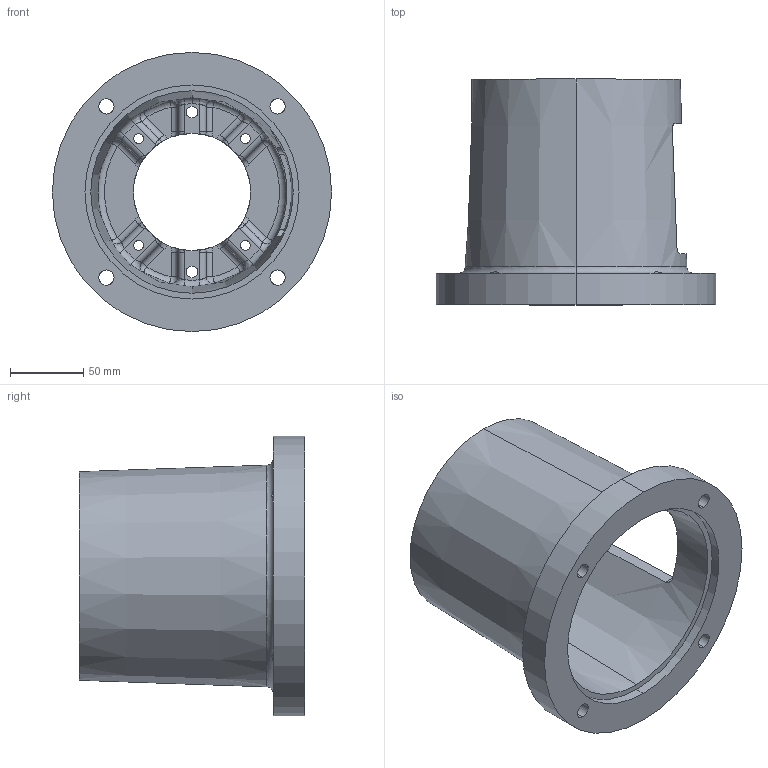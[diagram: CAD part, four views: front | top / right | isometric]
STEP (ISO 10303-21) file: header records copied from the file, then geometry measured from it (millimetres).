
FILE_DESCRIPTION (( 'STEP AP203' ), '1' );
FILE_NAME ('E5756080M.STEP', '2014-11-03T16:12:13', ( '' ), ( '' ), 'SwSTEP 2.0', 'SolidWorks 2014', '' );
FILE_SCHEMA (( 'CONFIG_CONTROL_DESIGN' ));
Length unit declared in the file: inch
Products named in the file (1): E5756080M
Bounding box: 190.5 x 153.92 x 190.5 mm (x, y, z)
Volume: 735165.6 mm3; surface area: 176464.7 mm2
Topology: 1 solids, 1 shells, 177 faces, 456 edges, 267 vertices
Faces by surface type: cylinder 66, torus 39, plane 32, bspline 24, sphere 12, cone 4
Entity records: 7429 total; most frequent: CARTESIAN_POINT 3167, DIRECTION 902, ORIENTED_EDGE 888, EDGE_CURVE 444, AXIS2_PLACEMENT_3D 396, VERTEX_POINT 267, CIRCLE 242, EDGE_LOOP 199
